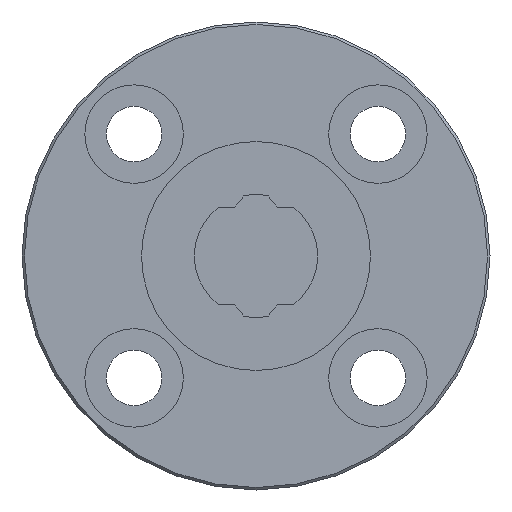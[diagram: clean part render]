
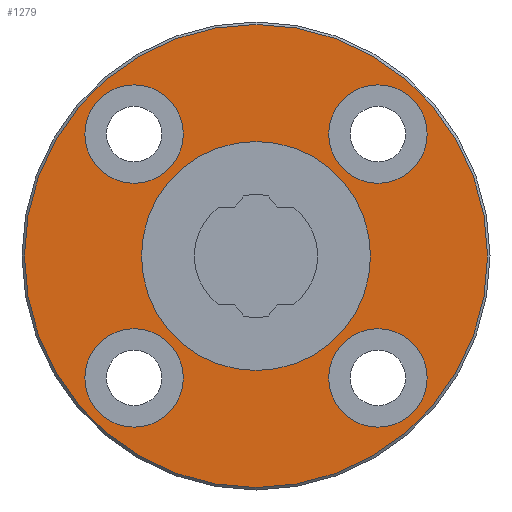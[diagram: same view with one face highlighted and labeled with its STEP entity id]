
A CAD part, left-side view. The second image highlights one B-rep face of the part: STEP entity #1279.
In plain terms, the highlighted planar face has unit normal (-1, 0, 0).
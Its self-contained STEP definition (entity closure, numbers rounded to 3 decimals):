
#48=PLANE('',#1433);
#395=ORIENTED_EDGE('',*,*,#674,.F.);
#396=ORIENTED_EDGE('',*,*,#675,.T.);
#397=ORIENTED_EDGE('',*,*,#676,.T.);
#398=ORIENTED_EDGE('',*,*,#677,.T.);
#399=ORIENTED_EDGE('',*,*,#678,.T.);
#400=ORIENTED_EDGE('',*,*,#673,.T.);
#673=EDGE_CURVE('',#825,#825,#929,.T.);
#674=EDGE_CURVE('',#826,#826,#930,.T.);
#675=EDGE_CURVE('',#827,#827,#931,.T.);
#676=EDGE_CURVE('',#828,#828,#932,.T.);
#677=EDGE_CURVE('',#829,#829,#933,.T.);
#678=EDGE_CURVE('',#830,#830,#934,.T.);
#825=VERTEX_POINT('',#2150);
#826=VERTEX_POINT('',#2153);
#827=VERTEX_POINT('',#2155);
#828=VERTEX_POINT('',#2157);
#829=VERTEX_POINT('',#2159);
#830=VERTEX_POINT('',#2161);
#929=CIRCLE('',#1432,9.3);
#930=CIRCLE('',#1434,18.8);
#931=CIRCLE('',#1435,4.);
#932=CIRCLE('',#1436,4.);
#933=CIRCLE('',#1437,4.);
#934=CIRCLE('',#1438,4.);
#1002=EDGE_LOOP('',(#395));
#1003=EDGE_LOOP('',(#396));
#1004=EDGE_LOOP('',(#397));
#1005=EDGE_LOOP('',(#398));
#1006=EDGE_LOOP('',(#399));
#1007=EDGE_LOOP('',(#400));
#1118=FACE_BOUND('',#1002,.T.);
#1119=FACE_BOUND('',#1003,.T.);
#1120=FACE_BOUND('',#1004,.T.);
#1121=FACE_BOUND('',#1005,.T.);
#1122=FACE_BOUND('',#1006,.T.);
#1123=FACE_BOUND('',#1007,.T.);
#1279=ADVANCED_FACE('',(#1118,#1119,#1120,#1121,#1122,#1123),#48,.F.);
#1432=AXIS2_PLACEMENT_3D('',#2149,#1731,#1732);
#1433=AXIS2_PLACEMENT_3D('',#2151,#1733,#1734);
#1434=AXIS2_PLACEMENT_3D('',#2152,#1735,#1736);
#1435=AXIS2_PLACEMENT_3D('',#2154,#1737,#1738);
#1436=AXIS2_PLACEMENT_3D('',#2156,#1739,#1740);
#1437=AXIS2_PLACEMENT_3D('',#2158,#1741,#1742);
#1438=AXIS2_PLACEMENT_3D('',#2160,#1743,#1744);
#1731=DIRECTION('',(1.,0.,0.));
#1732=DIRECTION('',(0.,0.,-1.));
#1733=DIRECTION('',(1.,0.,0.));
#1734=DIRECTION('',(0.,0.,-1.));
#1735=DIRECTION('',(1.,0.,0.));
#1736=DIRECTION('',(0.,0.,-1.));
#1737=DIRECTION('',(1.,0.,0.));
#1738=DIRECTION('',(0.,0.,-1.));
#1739=DIRECTION('',(1.,0.,0.));
#1740=DIRECTION('',(0.,0.,-1.));
#1741=DIRECTION('',(1.,0.,0.));
#1742=DIRECTION('',(0.,0.,-1.));
#1743=DIRECTION('',(1.,0.,0.));
#1744=DIRECTION('',(0.,0.,-1.));
#2149=CARTESIAN_POINT('',(-11.95,0.,0.));
#2150=CARTESIAN_POINT('',(-11.95,0.,-9.3));
#2151=CARTESIAN_POINT('',(-11.95,9.3,0.));
#2152=CARTESIAN_POINT('',(-11.95,0.,0.));
#2153=CARTESIAN_POINT('',(-11.95,0.,-18.8));
#2154=CARTESIAN_POINT('',(-11.95,-9.899,9.899));
#2155=CARTESIAN_POINT('',(-11.95,-9.899,5.899));
#2156=CARTESIAN_POINT('',(-11.95,-9.899,-9.899));
#2157=CARTESIAN_POINT('',(-11.95,-9.899,-13.899));
#2158=CARTESIAN_POINT('',(-11.95,9.899,-9.899));
#2159=CARTESIAN_POINT('',(-11.95,9.899,-13.899));
#2160=CARTESIAN_POINT('',(-11.95,9.899,9.899));
#2161=CARTESIAN_POINT('',(-11.95,9.899,5.899));
